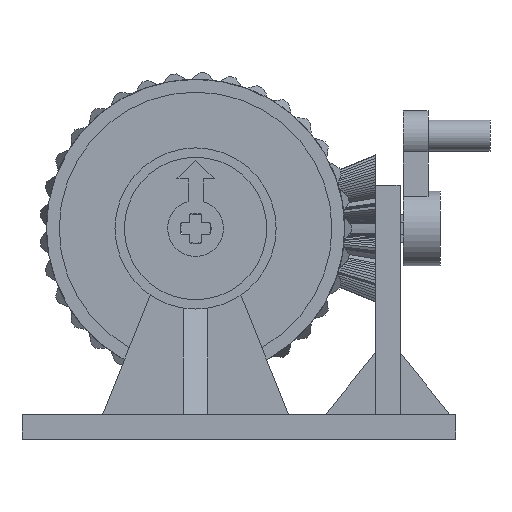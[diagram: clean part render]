
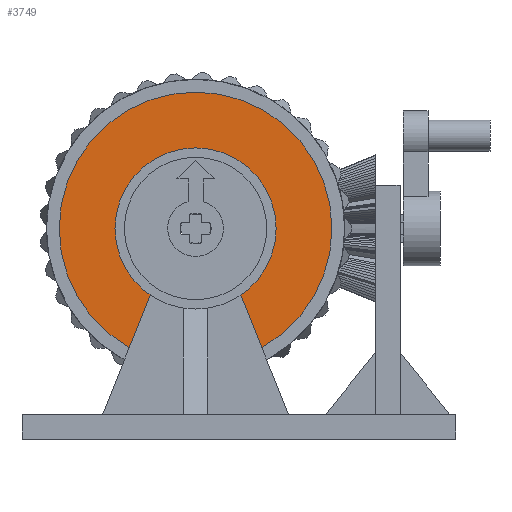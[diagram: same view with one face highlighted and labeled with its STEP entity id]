
A CAD part, left-side view. The second image highlights one B-rep face of the part: STEP entity #3749.
In plain terms, the highlighted planar face has unit normal (-1, 0, 0).
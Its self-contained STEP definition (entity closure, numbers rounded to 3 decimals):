
#3412 = CYLINDRICAL_SURFACE('',#3413,22.);
#3413 = AXIS2_PLACEMENT_3D('',#3414,#3415,#3416);
#3414 = CARTESIAN_POINT('',(-14.,0.,0.));
#3415 = DIRECTION('',(1.,0.,0.));
#3416 = DIRECTION('',(0.,0.,1.));
#3437 = VERTEX_POINT('',#3438);
#3438 = CARTESIAN_POINT('',(-14.,0.,22.));
#3459 = EDGE_CURVE('',#3437,#3437,#3460,.T.);
#3460 = SURFACE_CURVE('',#3461,(#3466,#3473),.PCURVE_S1.);
#3461 = CIRCLE('',#3462,22.);
#3462 = AXIS2_PLACEMENT_3D('',#3463,#3464,#3465);
#3463 = CARTESIAN_POINT('',(-14.,0.,0.));
#3464 = DIRECTION('',(1.,0.,0.));
#3465 = DIRECTION('',(0.,0.,1.));
#3466 = PCURVE('',#3412,#3467);
#3467 = DEFINITIONAL_REPRESENTATION('',(#3468),#3472);
#3468 = LINE('',#3469,#3470);
#3469 = CARTESIAN_POINT('',(0.,0.));
#3470 = VECTOR('',#3471,1.);
#3471 = DIRECTION('',(1.,0.));
#3472 = ( GEOMETRIC_REPRESENTATION_CONTEXT(2) 
PARAMETRIC_REPRESENTATION_CONTEXT() REPRESENTATION_CONTEXT('2D SPACE',''
  ) );
#3473 = PCURVE('',#3474,#3479);
#3474 = PLANE('',#3475);
#3475 = AXIS2_PLACEMENT_3D('',#3476,#3477,#3478);
#3476 = CARTESIAN_POINT('',(-14.,0.,0.));
#3477 = DIRECTION('',(1.,0.,0.));
#3478 = DIRECTION('',(0.,0.,1.));
#3479 = DEFINITIONAL_REPRESENTATION('',(#3480),#3484);
#3480 = CIRCLE('',#3481,22.);
#3481 = AXIS2_PLACEMENT_2D('',#3482,#3483);
#3482 = CARTESIAN_POINT('',(0.,0.));
#3483 = DIRECTION('',(1.,0.));
#3484 = ( GEOMETRIC_REPRESENTATION_CONTEXT(2) 
PARAMETRIC_REPRESENTATION_CONTEXT() REPRESENTATION_CONTEXT('2D SPACE',''
  ) );
#3624 = CYLINDRICAL_SURFACE('',#3625,2.9);
#3625 = AXIS2_PLACEMENT_3D('',#3626,#3627,#3628);
#3626 = CARTESIAN_POINT('',(-14.1,0.,0.));
#3627 = DIRECTION('',(1.,0.,0.));
#3628 = DIRECTION('',(0.,0.,1.));
#3749 = ADVANCED_FACE('',(#3750,#3753),#3474,.F.);
#3750 = FACE_BOUND('',#3751,.F.);
#3751 = EDGE_LOOP('',(#3752));
#3752 = ORIENTED_EDGE('',*,*,#3459,.T.);
#3753 = FACE_BOUND('',#3754,.F.);
#3754 = EDGE_LOOP('',(#3755));
#3755 = ORIENTED_EDGE('',*,*,#3756,.F.);
#3756 = EDGE_CURVE('',#3757,#3757,#3759,.T.);
#3757 = VERTEX_POINT('',#3758);
#3758 = CARTESIAN_POINT('',(-14.,0.,2.9));
#3759 = SURFACE_CURVE('',#3760,(#3765,#3772),.PCURVE_S1.);
#3760 = CIRCLE('',#3761,2.9);
#3761 = AXIS2_PLACEMENT_3D('',#3762,#3763,#3764);
#3762 = CARTESIAN_POINT('',(-14.,0.,0.));
#3763 = DIRECTION('',(1.,0.,0.));
#3764 = DIRECTION('',(0.,0.,1.));
#3765 = PCURVE('',#3474,#3766);
#3766 = DEFINITIONAL_REPRESENTATION('',(#3767),#3771);
#3767 = CIRCLE('',#3768,2.9);
#3768 = AXIS2_PLACEMENT_2D('',#3769,#3770);
#3769 = CARTESIAN_POINT('',(0.,0.));
#3770 = DIRECTION('',(1.,0.));
#3771 = ( GEOMETRIC_REPRESENTATION_CONTEXT(2) 
PARAMETRIC_REPRESENTATION_CONTEXT() REPRESENTATION_CONTEXT('2D SPACE',''
  ) );
#3772 = PCURVE('',#3624,#3773);
#3773 = DEFINITIONAL_REPRESENTATION('',(#3774),#3778);
#3774 = LINE('',#3775,#3776);
#3775 = CARTESIAN_POINT('',(0.,0.1));
#3776 = VECTOR('',#3777,1.);
#3777 = DIRECTION('',(1.,0.));
#3778 = ( GEOMETRIC_REPRESENTATION_CONTEXT(2) 
PARAMETRIC_REPRESENTATION_CONTEXT() REPRESENTATION_CONTEXT('2D SPACE',''
  ) );
